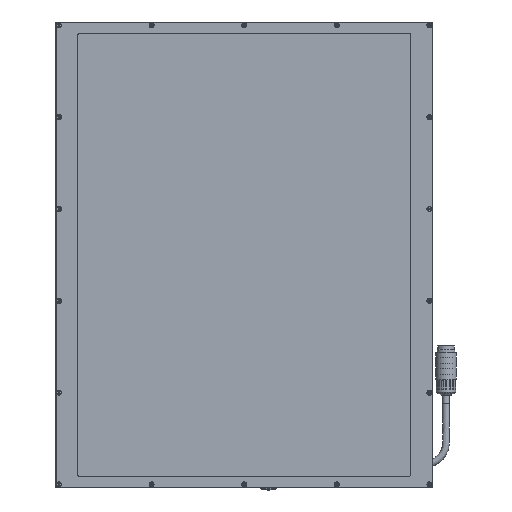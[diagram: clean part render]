
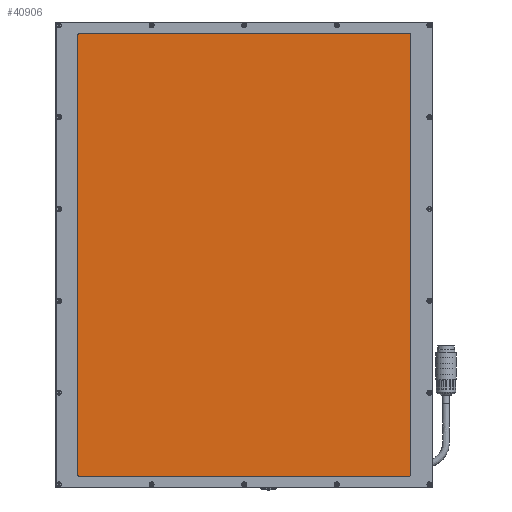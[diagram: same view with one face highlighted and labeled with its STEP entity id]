
A CAD part, top view. The second image highlights one B-rep face of the part: STEP entity #40906.
In plain terms, the highlighted planar face has unit normal (0, 0, 1).
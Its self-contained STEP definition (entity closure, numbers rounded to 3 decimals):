
#1273=LINE('',#59058,#3534);
#1275=LINE('',#59062,#3536);
#1279=LINE('',#59071,#3540);
#1283=LINE('',#59080,#3544);
#3534=VECTOR('',#46011,1000.);
#3536=VECTOR('',#46015,1000.);
#3540=VECTOR('',#46021,1000.);
#3544=VECTOR('',#46027,1000.);
#13740=ORIENTED_EDGE('',*,*,#15729,.F.);
#13741=ORIENTED_EDGE('',*,*,#15752,.T.);
#13742=ORIENTED_EDGE('',*,*,#15733,.F.);
#13743=ORIENTED_EDGE('',*,*,#15750,.T.);
#13744=ORIENTED_EDGE('',*,*,#15723,.F.);
#13745=ORIENTED_EDGE('',*,*,#15756,.T.);
#13746=ORIENTED_EDGE('',*,*,#15725,.F.);
#13747=ORIENTED_EDGE('',*,*,#15754,.T.);
#15723=EDGE_CURVE('',#19316,#19317,#1273,.T.);
#15725=EDGE_CURVE('',#19318,#19319,#1275,.T.);
#15729=EDGE_CURVE('',#19322,#19323,#1279,.T.);
#15733=EDGE_CURVE('',#19326,#19327,#1283,.T.);
#15750=EDGE_CURVE('',#19326,#19317,#21630,.F.);
#15752=EDGE_CURVE('',#19322,#19327,#21632,.F.);
#15754=EDGE_CURVE('',#19318,#19323,#21634,.F.);
#15756=EDGE_CURVE('',#19316,#19319,#21636,.F.);
#19316=VERTEX_POINT('',#59057);
#19317=VERTEX_POINT('',#59059);
#19318=VERTEX_POINT('',#59063);
#19319=VERTEX_POINT('',#59064);
#19322=VERTEX_POINT('',#59072);
#19323=VERTEX_POINT('',#59073);
#19326=VERTEX_POINT('',#59081);
#19327=VERTEX_POINT('',#59082);
#21630=CIRCLE('',#42085,2.);
#21632=CIRCLE('',#42088,2.);
#21634=CIRCLE('',#42091,2.);
#21636=CIRCLE('',#42094,2.);
#24072=EDGE_LOOP('',(#13740,#13741,#13742,#13743,#13744,#13745,#13746,#13747));
#26273=FACE_BOUND('',#24072,.T.);
#27365=PLANE('',#43503);
#40906=ADVANCED_FACE('',(#26273),#27365,.T.);
#42085=AXIS2_PLACEMENT_3D('',#59111,#46053,#46054);
#42088=AXIS2_PLACEMENT_3D('',#59114,#46059,#46060);
#42091=AXIS2_PLACEMENT_3D('',#59117,#46065,#46066);
#42094=AXIS2_PLACEMENT_3D('',#59120,#46071,#46072);
#43503=AXIS2_PLACEMENT_3D('',#67264,#50696,#50697);
#46011=DIRECTION('',(-1.,0.,0.));
#46015=DIRECTION('',(0.,-1.,0.));
#46021=DIRECTION('',(1.,0.,0.));
#46027=DIRECTION('',(0.,1.,0.));
#46053=DIRECTION('',(0.,0.,-1.));
#46054=DIRECTION('',(1.,0.,0.));
#46059=DIRECTION('',(0.,0.,-1.));
#46060=DIRECTION('',(1.,0.,0.));
#46065=DIRECTION('',(0.,0.,-1.));
#46066=DIRECTION('',(1.,0.,0.));
#46071=DIRECTION('',(0.,0.,-1.));
#46072=DIRECTION('',(1.,0.,0.));
#50696=DIRECTION('',(0.,0.,1.));
#50697=DIRECTION('',(1.,0.,0.));
#59057=CARTESIAN_POINT('',(148.5,-200.5,11.05));
#59058=CARTESIAN_POINT('',(150.5,-200.5,11.05));
#59059=CARTESIAN_POINT('',(-148.5,-200.5,11.05));
#59062=CARTESIAN_POINT('',(150.5,200.5,11.05));
#59063=CARTESIAN_POINT('',(150.5,198.5,11.05));
#59064=CARTESIAN_POINT('',(150.5,-198.5,11.05));
#59071=CARTESIAN_POINT('',(-150.5,200.5,11.05));
#59072=CARTESIAN_POINT('',(-148.5,200.5,11.05));
#59073=CARTESIAN_POINT('',(148.5,200.5,11.05));
#59080=CARTESIAN_POINT('',(-150.5,-200.5,11.05));
#59081=CARTESIAN_POINT('',(-150.5,-198.5,11.05));
#59082=CARTESIAN_POINT('',(-150.5,198.5,11.05));
#59111=CARTESIAN_POINT('',(-148.5,-198.5,11.05));
#59114=CARTESIAN_POINT('',(-148.5,198.5,11.05));
#59117=CARTESIAN_POINT('',(148.5,198.5,11.05));
#59120=CARTESIAN_POINT('',(148.5,-198.5,11.05));
#67264=CARTESIAN_POINT('',(0.,0.,
11.05));
